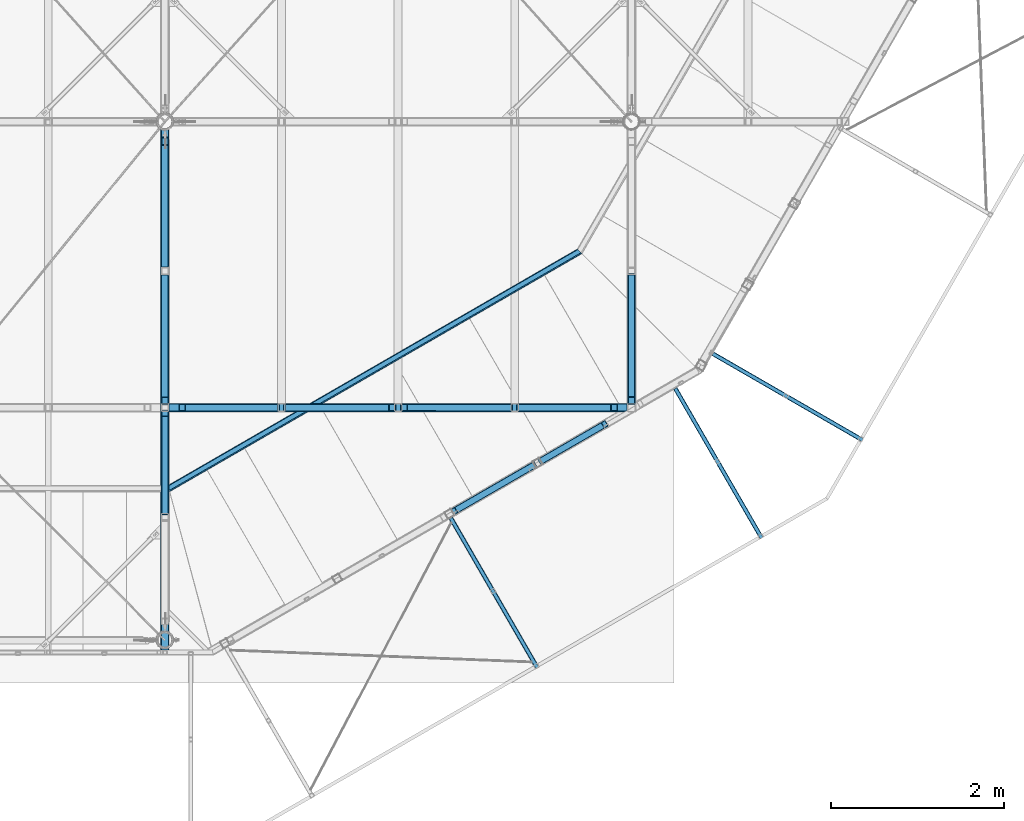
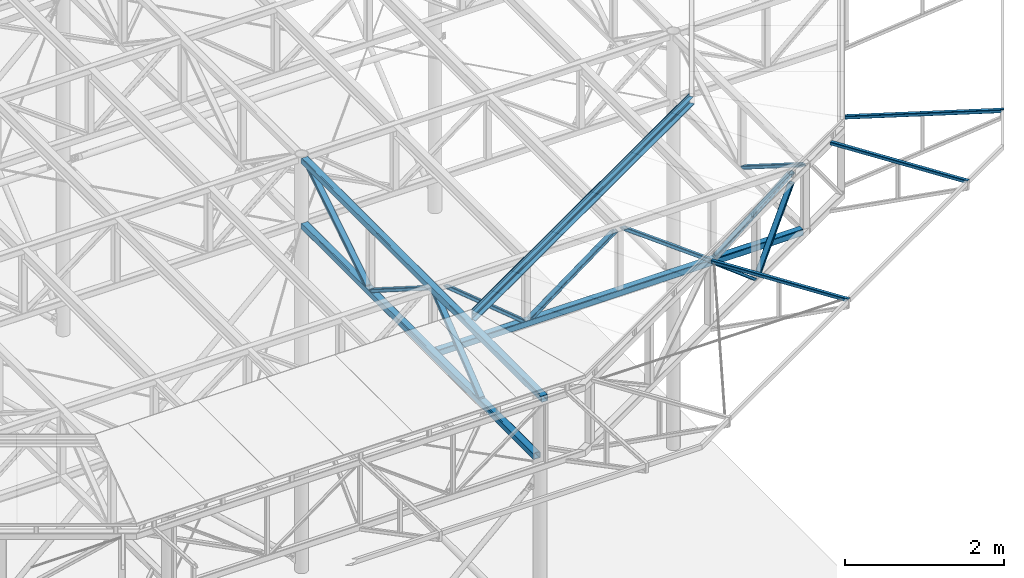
# One storey, part 46 of 132: 18 discrete accessories, 8 elements without a shape of their own.
"""IFC2X3 building model written with IfcOpenShell, lengths in millimetres."""

from ifc_helpers import new_model, si_unit, frame, origin_with_axes, origin_2d_with_axis, place, context, subcontext, project, spatial, hollow_rectangle, circle, l_section, extrude, boolean, clip, halfspace, material, type_object, element, aggregate, save


model = new_model("IFC2X3")

# Units and contexts
model_context = context("Model", 3, precision=1e-05, world=origin_with_axes())
body_context = subcontext(model_context, "Body", "Model", "MODEL_VIEW")
ifc_project = project(units=[si_unit("LENGTHUNIT", "METRE", prefix="MILLI"), si_unit("AREAUNIT", "SQUARE_METRE"), si_unit("VOLUMEUNIT", "CUBIC_METRE"), si_unit("MASSUNIT", "GRAM", prefix="KILO"), si_unit("TIMEUNIT", "SECOND"), si_unit("PLANEANGLEUNIT", "RADIAN"), si_unit("SOLIDANGLEUNIT", "STERADIAN"), si_unit("THERMODYNAMICTEMPERATUREUNIT", "DEGREE_CELSIUS"), si_unit("LUMINOUSINTENSITYUNIT", "LUMEN")], contexts=[model_context])

# Site, building, storey
site_placement = place(None, origin_with_axes())
site = spatial("IfcSite", under=ifc_project, at=site_placement, Name="Budowa", CompositionType="ELEMENT")
building_placement = place(site_placement, origin_with_axes())
building = spatial("IfcBuilding", under=site, at=building_placement, Name="Undefined", CompositionType="ELEMENT")
storey_placement = place(building_placement, origin_with_axes())
storey = spatial("IfcBuildingStorey", under=building, at=storey_placement, Name="Undefined", CompositionType="ELEMENT", Elevation=0.0)

# Assembly, discrete accessory
assembly_1_placement = place(storey_placement, origin_with_axes())
assembly_1 = element("IfcElementAssembly", 1, at=assembly_1_placement, inside=storey, Name="Steel Assembly", AssemblyPlace="NOTDEFINED", PredefinedType="RIGID_FRAME")
ifc_material = material(Name="STEEL/S235")
discrete_accessory_type = type_object("IfcDiscreteAccessoryType", Name="BEAM")
discrete_accessory_1_placement = place(assembly_1_placement, frame((14875.4050996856, 1760.34988664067, 13965.0), z_axis=(0.5000000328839, -0.866025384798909, 0.0), x_axis=(0.866025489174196, 0.499999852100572, 0.0)))
discrete_accessory_1 = element("IfcDiscreteAccessory", 2, at=discrete_accessory_1_placement, type_object=discrete_accessory_type, material=ifc_material, Name="BEAM", ObjectType="L50*6", context=body_context, shape_type="Clipping", body=[
    clip(clip(extrude(l_section(Depth=50.0, Width=50.0, Thickness=6.0, FilletRadius=7.0, EdgeRadius=3.5, at=origin_2d_with_axis()), frame((5526.2433656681, -1.81898940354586e-12, -9.09494701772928e-13), z_axis=(-1.0, 0.0, 0.0), x_axis=(0.0, -1.0, 0.0)), (0.0, 0.0, 1.0), 5576.68), halfspace(frame((5475.81035694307, -1.81898940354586e-12, -25.0000000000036), z_axis=(-0.965925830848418, 0.0, 0.258819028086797), x_axis=(0.0, 1.0, 0.0)), True)), halfspace(frame((3.51101334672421e-08, 0.0, -24.9999999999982), z_axis=(-0.965925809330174, 0.0, -0.258819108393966), x_axis=(0.0, 1.0, 0.0)), False)),
])
aggregate(assembly_1, [discrete_accessory_1])

assembly_2_placement = place(storey_placement, origin_with_axes())
assembly_2 = element("IfcElementAssembly", 3, at=assembly_2_placement, inside=storey, Name="Steel Assembly", AssemblyPlace="NOTDEFINED", PredefinedType="RIGID_FRAME")
discrete_accessory_2_placement = place(assembly_2_placement, frame((14879.2435563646, 1758.52456850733, 13955.0), z_axis=(0.0, 0.0, 1.0), x_axis=(0.866025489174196, 0.499999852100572, 0.0)))
discrete_accessory_2 = element("IfcDiscreteAccessory", 4, at=discrete_accessory_2_placement, type_object=discrete_accessory_type, material=ifc_material, Name="BEAM", ObjectType="L150*75*9", context=body_context, shape_type="Clipping", body=[
    clip(clip(extrude(l_section(Depth=150.0, Width=75.0, Thickness=9.0, FilletRadius=10.5, EdgeRadius=5.5, at=origin_2d_with_axis()), frame((5546.63678901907, -3.07900193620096e-13, 0.0), z_axis=(-1.0, 0.0, 0.0), x_axis=(0.0, -1.0, 0.0)), (0.0, 0.0, 1.0), 5622.29), halfspace(frame((5470.98727593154, 37.5000000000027, 0.0), z_axis=(-0.965925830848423, -0.258819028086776, 0.0), x_axis=(0.0, 0.0, 1.0)), True)), halfspace(frame((1.9117578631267e-08, 37.5000000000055, -1.81898940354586e-12), z_axis=(-0.965925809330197, 0.258819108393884, 0.0), x_axis=(0.0, 0.0, 1.0)), False)),
])
aggregate(assembly_2, [discrete_accessory_2])

assembly_3_placement = place(storey_placement, origin_with_axes())
assembly_3 = element("IfcElementAssembly", 5, at=assembly_3_placement, inside=storey, Name="Steel Assembly", AssemblyPlace="NOTDEFINED", PredefinedType="RIGID_FRAME")
discrete_accessory_3_placement = place(assembly_3_placement, frame((21169.1983036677, 3312.5153364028, 13855.0311915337), z_axis=(-0.499969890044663, -0.866042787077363, 0.0), x_axis=(0.864962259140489, -0.499346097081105, 0.0499376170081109)))
discrete_accessory_3 = element("IfcDiscreteAccessory", 6, at=discrete_accessory_3_placement, type_object=discrete_accessory_type, material=ifc_material, Name="BEAM", ObjectType="SHS50*4", context=body_context, shape_type="Clipping", body=[
    clip(clip(extrude(hollow_rectangle(XDim=50.0, YDim=50.0, WallThickness=4.0, InnerFilletRadius=4.0, OuterFilletRadius=8.0, at=origin_2d_with_axis()), frame((2047.80222226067, -1.81898940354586e-12, -1.00153404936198e-12), z_axis=(-1.0, 0.0, 0.0), x_axis=(0.0, -1.0, 0.0)), (0.0, 0.0, 1.0), 2120.54), halfspace(frame((2002.59894631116, 25.0000000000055, -2.91038304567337e-11), z_axis=(-0.689225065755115, 0.724547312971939, 0.0), x_axis=(0.0, 0.0, 1.0)), True)), halfspace(frame((-1.21290213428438e-08, 25.0000000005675, 73.1665326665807), z_axis=(-0.998752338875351, 0.0499376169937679, 0.0), x_axis=(-0.0499376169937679, -0.998752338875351, 0.0)), False)),
])
aggregate(assembly_3, [discrete_accessory_3])

assembly_4_placement = place(storey_placement, origin_with_axes())
assembly_4 = element("IfcElementAssembly", 7, at=assembly_4_placement, inside=storey, Name="Steel Assembly", AssemblyPlace="NOTDEFINED", PredefinedType="RIGID_FRAME")
discrete_accessory_4_placement = place(assembly_4_placement, frame((20733.5513428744, 2910.24346693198, 13855.0311915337), z_axis=(0.866042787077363, 0.499969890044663, 0.0), x_axis=(0.499346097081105, -0.86496225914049, 0.0499376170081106)))
discrete_accessory_4 = element("IfcDiscreteAccessory", 8, at=discrete_accessory_4_placement, type_object=discrete_accessory_type, material=ifc_material, Name="BEAM", ObjectType="SHS50*4", context=body_context, shape_type="Clipping", body=[
    clip(clip(extrude(hollow_rectangle(XDim=50.0, YDim=50.0, WallThickness=4.0, InnerFilletRadius=4.0, OuterFilletRadius=8.0, at=origin_2d_with_axis()), frame((2047.80222226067, -1.81898940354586e-12, -1.00153404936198e-12), z_axis=(-1.0, 0.0, 0.0), x_axis=(0.0, -1.0, 0.0)), (0.0, 0.0, 1.0), 2120.54), halfspace(frame((2002.5989463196, -25.0000000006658, -7.85761585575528e-07), z_axis=(-0.689225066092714, -0.724547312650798, 2.88487317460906e-10), x_axis=(0.0, 0.0, -1.0)), True)), halfspace(frame((-1.23691279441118e-08, -25.0000000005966, 73.1665326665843), z_axis=(-0.998752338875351, -0.0499376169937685, 0.0), x_axis=(0.0, 0.0, -1.0)), False)),
])
aggregate(assembly_4, [discrete_accessory_4])

assembly_5_placement = place(storey_placement, origin_with_axes())
assembly_5 = element("IfcElementAssembly", 9, at=assembly_5_placement, inside=storey, Name="Steel Assembly", AssemblyPlace="NOTDEFINED", PredefinedType="RIGID_FRAME")
discrete_accessory_5_placement = place(assembly_5_placement, frame((18135.4229816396, 1410.33379680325, 13855.0311915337), z_axis=(0.866042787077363, 0.499969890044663, 0.0), x_axis=(0.499346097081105, -0.86496225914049, 0.0499376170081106)))
discrete_accessory_5 = element("IfcDiscreteAccessory", 10, at=discrete_accessory_5_placement, type_object=discrete_accessory_type, material=ifc_material, Name="BEAM", ObjectType="SHS50*4", context=body_context, shape_type="Clipping", body=[
    clip(clip(extrude(hollow_rectangle(XDim=50.0, YDim=50.0, WallThickness=4.0, InnerFilletRadius=4.0, OuterFilletRadius=8.0, at=origin_2d_with_axis()), frame((2047.80222226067, -1.81898940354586e-12, -1.00153404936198e-12), z_axis=(-1.0, 0.0, 0.0), x_axis=(0.0, -1.0, 0.0)), (0.0, 0.0, 1.0), 2120.54), halfspace(frame((2002.5989463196, -25.0000000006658, -7.85761585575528e-07), z_axis=(-0.689225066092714, -0.724547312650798, 2.88487317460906e-10), x_axis=(0.0, 0.0, -1.0)), True)), halfspace(frame((-1.23691279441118e-08, -25.0000000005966, 73.1665326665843), z_axis=(-0.998752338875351, -0.0499376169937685, 0.0), x_axis=(0.0, 0.0, -1.0)), False)),
])
aggregate(assembly_5, [discrete_accessory_5])

# Assembly, discrete accessories
assembly_6_placement = place(storey_placement, origin_with_axes())
assembly_6 = element("IfcElementAssembly", 11, at=assembly_6_placement, inside=storey, Name="Steel Assembly", AssemblyPlace="NOTDEFINED", PredefinedType="RIGID_FRAME")
discrete_accessory_6_placement = place(assembly_6_placement, frame((19956.0939902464, 2520.58970884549, 13830.0000000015), z_axis=(0.499969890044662, -0.866042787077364, 0.0), x_axis=(-0.593830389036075, -0.342820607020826, -0.727900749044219)))
solid_1 = boolean("DIFFERENCE", boolean("DIFFERENCE", extrude(hollow_rectangle(XDim=90.0, YDim=90.0, WallThickness=4.0, InnerFilletRadius=4.0, OuterFilletRadius=8.0, at=origin_2d_with_axis()), frame((682.22123395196, -651.306316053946, 2.31073860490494e-07), z_axis=(0.727900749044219, 0.685682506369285, 2.47249776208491e-10), x_axis=(-0.685682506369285, 0.727900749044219, -2.32911134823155e-10)), (0.0, 0.0, 1.0), 900.0), halfspace(frame((682.221233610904, -651.306316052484, 1000.00000023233), z_axis=(0.727900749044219, 0.685682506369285, 2.47249776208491e-10), x_axis=(0.0, 0.0, -1.0)), True)), halfspace(frame((1337.3319077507, -34.1920603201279, 1000.00000045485), z_axis=(-0.727900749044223, -0.685682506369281, -2.47250682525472e-10), x_axis=(0.0, 0.0, -1.0)), True))
discrete_accessory_6 = element("IfcDiscreteAccessory", 12, at=discrete_accessory_6_placement, type_object=discrete_accessory_type, material=ifc_material, Name="BEAM", ObjectType="RHS80*40*4", context=body_context, shape_type="CSG", body=[
    boolean("DIFFERENCE", boolean("DIFFERENCE", boolean("DIFFERENCE", extrude(hollow_rectangle(XDim=40.0, YDim=80.0, WallThickness=4.0, InnerFilletRadius=4.0, OuterFilletRadius=8.0, at=origin_2d_with_axis()), frame((1373.49673337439, 0.0, -8.42217636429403e-13), z_axis=(-1.0, 0.0, 0.0), x_axis=(0.0, -1.0, 0.0)), (0.0, 0.0, 1.0), 1373.18), solid_1), halfspace(frame((1337.41863297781, -34.284125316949, 999.999999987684), z_axis=(-0.727900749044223, -0.685682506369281, -2.47250682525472e-10), x_axis=(0.685682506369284, -0.72790074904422, 2.32910679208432e-10)), True)), halfspace(frame((36.3950371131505, 34.2841253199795, 1000.00000001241), z_axis=(0.727900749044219, 0.685682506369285, 2.47249776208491e-10), x_axis=(-0.685682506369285, 0.727900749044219, -2.32911134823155e-10)), True)),
])
discrete_accessory_7_placement = place(assembly_6_placement, frame((18120.1928179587, 1460.71677769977, 13830.0000000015), z_axis=(0.499969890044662, -0.866042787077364, 0.0), x_axis=(0.660231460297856, 0.381154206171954, -0.64715986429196)))
solid_2 = boolean("DIFFERENCE", boolean("DIFFERENCE", extrude(hollow_rectangle(XDim=90.0, YDim=90.0, WallThickness=4.0, InnerFilletRadius=4.0, OuterFilletRadius=8.0, at=origin_2d_with_axis()), frame((32.3579932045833, -38.117716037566, 1.45102752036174e-08), z_axis=(0.64715986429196, -0.762354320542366, 2.65512611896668e-10), x_axis=(0.762354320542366, 0.64715986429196, 3.12771697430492e-10)), (0.0, 0.0, 1.0), 900.0), halfspace(frame((32.3579927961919, -38.1177160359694, 1000.00000001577), z_axis=(0.64715986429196, -0.762354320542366, 2.65512611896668e-10), x_axis=(0.0, 0.0, -1.0)), True)), halfspace(frame((614.801870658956, -724.236604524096, 1000.00000025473), z_axis=(-0.64715986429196, 0.762354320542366, -2.655122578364e-10), x_axis=(0.0, 0.0, -1.0)), True))
solid_3 = boolean("DIFFERENCE", boolean("DIFFERENCE", extrude(hollow_rectangle(XDim=90.0, YDim=90.0, WallThickness=4.0, InnerFilletRadius=4.0, OuterFilletRadius=8.0, at=origin_2d_with_axis()), frame((930.411382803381, 724.236604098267, 3.85323998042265e-07), z_axis=(0.64715986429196, -0.762354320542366, 2.65512611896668e-10), x_axis=(0.762354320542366, 0.64715986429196, 3.12771697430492e-10)), (0.0, 0.0, 1.0), 900.0), halfspace(frame((930.411382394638, 724.236604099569, 1000.00000038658), z_axis=(0.64715986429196, -0.762354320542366, 2.65512611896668e-10), x_axis=(0.0, 0.0, -1.0)), True)), halfspace(frame((1512.8552602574, 38.1177156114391, 1000.00000062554), z_axis=(-0.64715986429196, 0.762354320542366, -2.655122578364e-10), x_axis=(0.0, 0.0, -1.0)), True))
discrete_accessory_7 = element("IfcDiscreteAccessory", 13, at=discrete_accessory_7_placement, type_object=discrete_accessory_type, material=ifc_material, Name="BEAM", ObjectType="RHS80*40*4", context=body_context, shape_type="CSG", body=[
    boolean("DIFFERENCE", boolean("DIFFERENCE", boolean("DIFFERENCE", boolean("DIFFERENCE", extrude(hollow_rectangle(XDim=40.0, YDim=80.0, WallThickness=4.0, InnerFilletRadius=4.0, OuterFilletRadius=8.0, at=origin_2d_with_axis()), frame((1542.70146532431, -8.56371343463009e-14, -4.63483066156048e-14), z_axis=(-1.0, 0.0, 0.0), x_axis=(0.0, -1.0, 0.0)), (0.0, 0.0, 1.0), 1540.19), solid_2), solid_3), halfspace(frame((1512.8552602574, 38.1177156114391, 1000.00000062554), z_axis=(-0.64715986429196, 0.762354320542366, -2.655122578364e-10), x_axis=(-0.762354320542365, -0.647159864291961, -3.12771589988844e-10)), True)), halfspace(frame((32.3579927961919, -38.1177160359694, 1000.00000001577), z_axis=(0.64715986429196, -0.762354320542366, 2.65512611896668e-10), x_axis=(0.762354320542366, 0.64715986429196, 3.12771697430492e-10)), True)),
])

assembly_7_placement = place(storey_placement, origin_with_axes())
assembly_7 = element("IfcElementAssembly", 14, at=assembly_7_placement, inside=storey, Name="Steel Assembly", AssemblyPlace="NOTDEFINED", PredefinedType="RIGID_FRAME")
discrete_accessory_8_placement = place(assembly_7_placement, frame((20083.9999999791, 2690.0000000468, 13830.0), z_axis=(0.0, -1.0, 0.0), x_axis=(-0.770567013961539, 0.0, -0.637358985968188)))
solid_4 = boolean("DIFFERENCE", boolean("DIFFERENCE", extrude(hollow_rectangle(XDim=90.0, YDim=90.0, WallThickness=6.0, InnerFilletRadius=6.0, OuterFilletRadius=12.0, at=origin_2d_with_axis()), frame((1537.1065565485, -38.5283507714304, -6.22094376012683e-10), z_axis=(-0.637358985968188, -0.770567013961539, 0.0), x_axis=(0.770567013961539, -0.637358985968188, 0.0)), (0.0, 0.0, 1.0), 900.0), halfspace(frame((1537.1065565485, -38.5283507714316, 999.999999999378), z_axis=(-0.637358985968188, -0.770567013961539, 0.0), x_axis=(0.770567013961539, -0.637358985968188, 0.0)), True)), halfspace(frame((963.483469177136, -732.038663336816, 999.999999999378), z_axis=(0.637358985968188, 0.770567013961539, 0.0), x_axis=(-0.770567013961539, 0.637358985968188, 0.0)), True))
discrete_accessory_8 = element("IfcDiscreteAccessory", 15, at=discrete_accessory_8_placement, type_object=discrete_accessory_type, material=ifc_material, Name="BEAM", ObjectType="RHS90*50*5", context=body_context, shape_type="CSG", body=[
    boolean("DIFFERENCE", boolean("DIFFERENCE", boolean("DIFFERENCE", extrude(hollow_rectangle(XDim=50.0, YDim=90.0, WallThickness=5.0, InnerFilletRadius=7.5, OuterFilletRadius=12.5, at=origin_2d_with_axis()), frame((1533.07734352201, 2.27373675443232e-12, 0.0), z_axis=(-1.0, 0.0, 0.0), x_axis=(0.0, -1.0, 0.0)), (0.0, 0.0, 1.0), 1497.18), solid_4), halfspace(frame((1537.1065565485, -38.5283507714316, 999.999999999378), z_axis=(-0.637358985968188, -0.770567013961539, 0.0), x_axis=(0.770567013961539, -0.637358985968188, 0.0)), True)), halfspace(frame((31.867949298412, 38.52835069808, 1000.0), z_axis=(0.637358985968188, 0.770567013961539, 0.0), x_axis=(-0.770567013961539, 0.637358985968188, 0.0)), True)),
])
discrete_accessory_9_placement = place(assembly_7_placement, frame((14965.9999999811, 2690.0000000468, 13830.0), z_axis=(0.0, -1.0, 0.0), x_axis=(0.770567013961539, 0.0, -0.637358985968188)))
solid_5 = boolean("DIFFERENCE", boolean("DIFFERENCE", extrude(hollow_rectangle(XDim=90.0, YDim=90.0, WallThickness=6.0, InnerFilletRadius=6.0, OuterFilletRadius=12.0, at=origin_2d_with_axis()), frame((1537.1065565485, 38.528350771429, -6.22094376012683e-10), z_axis=(-0.637358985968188, 0.770567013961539, 0.0), x_axis=(-0.770567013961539, -0.637358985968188, 0.0)), (0.0, 0.0, 1.0), 900.0), halfspace(frame((1537.1065565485, 38.5283507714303, 999.999999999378), z_axis=(-0.637358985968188, 0.770567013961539, 0.0), x_axis=(-0.770567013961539, -0.637358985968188, 0.0)), True)), halfspace(frame((963.483469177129, 732.038663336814, 999.999999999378), z_axis=(0.637358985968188, -0.770567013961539, 0.0), x_axis=(0.770567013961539, 0.637358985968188, 0.0)), True))
discrete_accessory_9 = element("IfcDiscreteAccessory", 16, at=discrete_accessory_9_placement, type_object=discrete_accessory_type, material=ifc_material, Name="BEAM", ObjectType="RHS90*50*5", context=body_context, shape_type="CSG", body=[
    boolean("DIFFERENCE", boolean("DIFFERENCE", boolean("DIFFERENCE", extrude(hollow_rectangle(XDim=50.0, YDim=90.0, WallThickness=5.0, InnerFilletRadius=7.5, OuterFilletRadius=12.5, at=origin_2d_with_axis()), frame((1533.07734352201, 2.27373675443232e-12, 0.0), z_axis=(-1.0, 0.0, 0.0), x_axis=(0.0, -1.0, 0.0)), (0.0, 0.0, 1.0), 1497.18), solid_5), halfspace(frame((1537.1065565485, 38.5283507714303, 999.999999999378), z_axis=(-0.637358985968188, 0.770567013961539, 0.0), x_axis=(-0.770567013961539, -0.637358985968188, 0.0)), True)), halfspace(frame((31.867949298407, -38.5283506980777, 1000.0), z_axis=(0.637358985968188, -0.770567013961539, 0.0), x_axis=(0.770567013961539, 0.637358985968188, 0.0)), True)),
])
discrete_accessory_10_placement = place(assembly_7_placement, frame((17524.9999999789, 2690.0000000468, 13830.0), z_axis=(0.0, -1.0, 0.0), x_axis=(-0.803557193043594, 0.0, -0.595227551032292)))
solid_6 = boolean("DIFFERENCE", boolean("DIFFERENCE", extrude(hollow_rectangle(XDim=90.0, YDim=90.0, WallThickness=6.0, InnerFilletRadius=6.0, OuterFilletRadius=12.0, at=origin_2d_with_axis()), frame((565.466173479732, 763.379333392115, -6.22094376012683e-10), z_axis=(-0.595227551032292, -0.803557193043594, 0.0), x_axis=(0.803557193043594, -0.595227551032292, 0.0)), (0.0, 0.0, 1.0), 900.0), halfspace(frame((565.46617347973, 763.379333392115, 999.999999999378), z_axis=(-0.595227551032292, -0.803557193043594, 0.0), x_axis=(0.803557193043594, -0.595227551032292, 0.0)), True)), halfspace(frame((29.7613775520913, 40.1778596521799, 1000.0), z_axis=(0.595227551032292, 0.803557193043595, 0.0), x_axis=(-0.803557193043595, 0.595227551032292, 0.0)), True))
solid_7 = boolean("DIFFERENCE", boolean("DIFFERENCE", extrude(hollow_rectangle(XDim=90.0, YDim=90.0, WallThickness=6.0, InnerFilletRadius=6.0, OuterFilletRadius=12.0, at=origin_2d_with_axis()), frame((1650.26838408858, -40.1778605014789, -6.22094376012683e-10), z_axis=(-0.595227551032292, -0.803557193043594, 0.0), x_axis=(0.803557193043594, -0.595227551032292, 0.0)), (0.0, 0.0, 1.0), 900.0), halfspace(frame((1650.2683829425, -40.1778596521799, 1000.0), z_axis=(-0.595227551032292, -0.803557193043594, 0.0), x_axis=(0.803557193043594, -0.595227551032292, 0.0)), True)), halfspace(frame((1114.56358815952, -763.379334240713, 999.999999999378), z_axis=(0.595227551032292, 0.803557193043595, 0.0), x_axis=(-0.803557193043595, 0.595227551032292, 0.0)), True))
discrete_accessory_10 = element("IfcDiscreteAccessory", 17, at=discrete_accessory_10_placement, type_object=discrete_accessory_type, material=ifc_material, Name="BEAM", ObjectType="RHS90*50*5", context=body_context, shape_type="CSG", body=[
    boolean("DIFFERENCE", boolean("DIFFERENCE", boolean("DIFFERENCE", boolean("DIFFERENCE", extrude(hollow_rectangle(XDim=50.0, YDim=90.0, WallThickness=5.0, InnerFilletRadius=7.5, OuterFilletRadius=12.5, at=origin_2d_with_axis()), frame((1632.54994793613, 0.0, 0.0), z_axis=(-1.0, 0.0, 0.0), x_axis=(0.0, -1.0, 0.0)), (0.0, 0.0, 1.0), 1585.07), solid_6), solid_7), halfspace(frame((1650.2683829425, -40.1778596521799, 1000.0), z_axis=(-0.595227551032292, -0.803557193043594, 0.0), x_axis=(0.803557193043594, -0.595227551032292, 0.0)), True)), halfspace(frame((29.7613775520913, 40.1778596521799, 1000.0), z_axis=(0.595227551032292, 0.803557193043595, 0.0), x_axis=(-0.803557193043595, 0.595227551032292, 0.0)), True)),
])
discrete_accessory_11_placement = place(assembly_7_placement, frame((17524.9999999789, 2690.0000000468, 13830.0), z_axis=(0.0, -1.0, 0.0), x_axis=(0.803557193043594, 0.0, -0.595227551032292)))
solid_8 = boolean("DIFFERENCE", boolean("DIFFERENCE", extrude(hollow_rectangle(XDim=90.0, YDim=90.0, WallThickness=6.0, InnerFilletRadius=6.0, OuterFilletRadius=12.0, at=origin_2d_with_axis()), frame((1650.26838408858, 40.1778605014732, -6.22094376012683e-10), z_axis=(-0.595227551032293, 0.803557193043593, 0.0), x_axis=(-0.803557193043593, -0.595227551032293, 0.0)), (0.0, 0.0, 1.0), 900.0), halfspace(frame((1650.2683829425, 40.1778596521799, 1000.0), z_axis=(-0.595227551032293, 0.803557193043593, 0.0), x_axis=(-0.803557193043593, -0.595227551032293, 0.0)), True)), halfspace(frame((1114.56358815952, 763.379334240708, 999.999999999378), z_axis=(0.595227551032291, -0.803557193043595, 0.0), x_axis=(0.803557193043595, 0.595227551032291, 0.0)), True))
solid_9 = boolean("DIFFERENCE", boolean("DIFFERENCE", extrude(hollow_rectangle(XDim=90.0, YDim=90.0, WallThickness=6.0, InnerFilletRadius=6.0, OuterFilletRadius=12.0, at=origin_2d_with_axis()), frame((565.46617347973, -763.379333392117, -6.22094376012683e-10), z_axis=(-0.595227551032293, 0.803557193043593, 0.0), x_axis=(-0.803557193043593, -0.595227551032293, 0.0)), (0.0, 0.0, 1.0), 900.0), halfspace(frame((565.46617347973, -763.37933339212, 999.999999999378), z_axis=(-0.595227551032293, 0.803557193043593, 0.0), x_axis=(-0.803557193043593, -0.595227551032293, 0.0)), True)), halfspace(frame((29.7613775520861, -40.1778596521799, 1000.0), z_axis=(0.595227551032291, -0.803557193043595, 0.0), x_axis=(0.803557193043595, 0.595227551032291, 0.0)), True))
discrete_accessory_11 = element("IfcDiscreteAccessory", 18, at=discrete_accessory_11_placement, type_object=discrete_accessory_type, material=ifc_material, Name="BEAM", ObjectType="RHS90*50*5", context=body_context, shape_type="CSG", body=[
    boolean("DIFFERENCE", boolean("DIFFERENCE", boolean("DIFFERENCE", boolean("DIFFERENCE", extrude(hollow_rectangle(XDim=50.0, YDim=90.0, WallThickness=5.0, InnerFilletRadius=7.5, OuterFilletRadius=12.5, at=origin_2d_with_axis()), frame((1632.54994793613, 0.0, 0.0), z_axis=(-1.0, 0.0, 0.0), x_axis=(0.0, -1.0, 0.0)), (0.0, 0.0, 1.0), 1585.07), solid_8), solid_9), halfspace(frame((1650.2683829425, 40.1778596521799, 1000.0), z_axis=(-0.595227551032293, 0.803557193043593, 0.0), x_axis=(-0.803557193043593, -0.595227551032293, 0.0)), True)), halfspace(frame((29.7613775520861, -40.1778596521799, 1000.0), z_axis=(0.595227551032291, -0.803557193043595, 0.0), x_axis=(0.803557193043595, 0.595227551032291, 0.0)), True)),
])
discrete_accessory_12_placement = place(assembly_7_placement, frame((14874.9999999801, 2690.00000004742, 12830.0), z_axis=(0.0, -1.0, 0.0), x_axis=(1.0, 0.0, 0.0)))
discrete_accessory_12 = element("IfcDiscreteAccessory", 19, at=discrete_accessory_12_placement, type_object=discrete_accessory_type, material=ifc_material, Name="BEAM", ObjectType="SHS100*8", context=body_context, shape_type="SweptSolid", body=[
    extrude(hollow_rectangle(XDim=100.0, YDim=100.0, WallThickness=8.0, InnerFilletRadius=8.0, OuterFilletRadius=16.0, at=origin_2d_with_axis()), frame((5300.0, 0.0, 0.0), z_axis=(-1.0, 0.0, 0.0), x_axis=(0.0, -1.0, 0.0)), (0.0, 0.0, 1.0), 5300.0),
])
aggregate(assembly_7, [discrete_accessory_8, discrete_accessory_9, discrete_accessory_10, discrete_accessory_11, discrete_accessory_12])

# Discrete accessory
discrete_accessory_13_placement = place(assembly_6_placement, frame((14824.9999999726, 5851.96136506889, 13830.0000000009), z_axis=(1.0, 0.0, 0.0), x_axis=(0.0, -0.845133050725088, -0.534556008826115)))
solid_10 = boolean("DIFFERENCE", boolean("DIFFERENCE", extrude(hollow_rectangle(XDim=90.0, YDim=90.0, WallThickness=6.0, InnerFilletRadius=6.0, OuterFilletRadius=12.0, at=origin_2d_with_axis()), frame((1362.85050194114, -802.855744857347, -4.56930138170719e-09), z_axis=(0.534556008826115, 0.845133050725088, 0.0), x_axis=(0.845133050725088, -0.534556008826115, 0.0)), (0.0, 0.0, 1.0), 900.0), halfspace(frame((1362.85050194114, -802.855744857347, -1000.00000000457), z_axis=(0.534556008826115, 0.845133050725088, 0.0), x_axis=(0.845133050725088, -0.534556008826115, 0.0)), True)), halfspace(frame((1843.95090988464, -42.2359992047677, -1000.00000000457), z_axis=(-0.534556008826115, -0.845133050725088, 0.0), x_axis=(-0.845133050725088, 0.534556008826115, 0.0)), True))
discrete_accessory_13 = element("IfcDiscreteAccessory", 20, at=discrete_accessory_13_placement, type_object=discrete_accessory_type, material=ifc_material, Name="BEAM", ObjectType="RHS90*50*5", context=body_context, shape_type="CSG", body=[
    boolean("DIFFERENCE", boolean("DIFFERENCE", boolean("DIFFERENCE", extrude(hollow_rectangle(XDim=50.0, YDim=90.0, WallThickness=5.0, InnerFilletRadius=7.5, OuterFilletRadius=12.5, at=origin_2d_with_axis()), frame((1846.12761391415, 0.0, 0.0), z_axis=(-1.0, 0.0, 0.0), x_axis=(0.0, -1.0, 0.0)), (0.0, 0.0, 1.0), 1821.54), solid_10), halfspace(frame((1843.98356280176, -42.2566525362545, 1000.0), z_axis=(-0.534556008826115, -0.845133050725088, 0.0), x_axis=(0.845133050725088, -0.534556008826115, 0.0)), True)), halfspace(frame((26.7278004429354, 42.2566525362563, 1000.0), z_axis=(0.534556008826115, 0.845133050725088, 0.0), x_axis=(-0.845133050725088, 0.534556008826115, 0.0)), True)),
])

discrete_accessory_14_placement = place(assembly_6_placement, frame((14824.9999999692, 2690.00000004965, 13830.0000000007), z_axis=(1.0, 0.0, 0.0), x_axis=(0.0, -0.785673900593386, -0.618640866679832)))
solid_11 = boolean("DIFFERENCE", boolean("DIFFERENCE", extrude(hollow_rectangle(XDim=90.0, YDim=90.0, WallThickness=6.0, InnerFilletRadius=6.0, OuterFilletRadius=12.0, at=origin_2d_with_axis()), frame((30.932043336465, 39.283695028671, -1.21326593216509e-09), z_axis=(0.618640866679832, 0.785673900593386, 0.0), x_axis=(0.785673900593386, -0.618640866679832, 0.0)), (0.0, 0.0, 1.0), 900.0), halfspace(frame((30.9320433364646, 39.283695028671, -1000.00000000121), z_axis=(0.618640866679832, 0.785673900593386, 0.0), x_axis=(0.785673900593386, -0.618640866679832, 0.0)), True)), halfspace(frame((587.708823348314, 746.390205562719, -1000.00000000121), z_axis=(-0.618640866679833, -0.785673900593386, 0.0), x_axis=(-0.785673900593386, 0.618640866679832, 0.0)), True))
solid_12 = boolean("DIFFERENCE", boolean("DIFFERENCE", extrude(hollow_rectangle(XDim=90.0, YDim=90.0, WallThickness=6.0, InnerFilletRadius=6.0, OuterFilletRadius=12.0, at=origin_2d_with_axis()), frame((1028.73789709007, -746.390205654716, -1.21326593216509e-09), z_axis=(0.618640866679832, 0.785673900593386, 0.0), x_axis=(0.785673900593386, -0.618640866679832, 0.0)), (0.0, 0.0, 1.0), 900.0), halfspace(frame((1028.73789709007, -746.390205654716, -1000.00000000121), z_axis=(0.618640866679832, 0.785673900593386, 0.0), x_axis=(0.785673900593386, -0.618640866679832, 0.0)), True)), halfspace(frame((1585.51467710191, -39.2836951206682, -1000.00000000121), z_axis=(-0.618640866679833, -0.785673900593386, 0.0), x_axis=(-0.785673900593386, 0.618640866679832, 0.0)), True))
discrete_accessory_14 = element("IfcDiscreteAccessory", 21, at=discrete_accessory_14_placement, type_object=discrete_accessory_type, material=ifc_material, Name="BEAM", ObjectType="RHS90*50*5", context=body_context, shape_type="CSG", body=[
    boolean("DIFFERENCE", boolean("DIFFERENCE", boolean("DIFFERENCE", boolean("DIFFERENCE", extrude(hollow_rectangle(XDim=50.0, YDim=90.0, WallThickness=5.0, InnerFilletRadius=7.5, OuterFilletRadius=12.5, at=origin_2d_with_axis()), frame((1564.98501807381, 8.68741200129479e-14, 0.0), z_axis=(-1.0, 0.0, 0.0), x_axis=(0.0, -1.0, 0.0)), (0.0, 0.0, 1.0), 1513.52), solid_11), solid_12), halfspace(frame((1585.51467698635, -39.2836950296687, 1000.0), z_axis=(-0.618640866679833, -0.785673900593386, 0.0), x_axis=(0.785673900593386, -0.618640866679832, 0.0)), True)), halfspace(frame((30.9320433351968, 39.2836950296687, 1000.0), z_axis=(0.618640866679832, 0.785673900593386, 0.0), x_axis=(-0.785673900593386, 0.618640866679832, 0.0)), True)),
])

discrete_accessory_15_placement = place(assembly_6_placement, frame((14824.9999999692, 2690.00000004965, 13830.0000000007), z_axis=(1.0, 0.0, 0.0), x_axis=(0.0, 0.845133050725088, -0.534556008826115)))
solid_13 = boolean("DIFFERENCE", boolean("DIFFERENCE", extrude(hollow_rectangle(XDim=90.0, YDim=90.0, WallThickness=6.0, InnerFilletRadius=6.0, OuterFilletRadius=12.0, at=origin_2d_with_axis()), frame((26.7278004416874, -42.2566525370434, -4.56930138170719e-09), z_axis=(0.534556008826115, -0.845133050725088, 0.0), x_axis=(-0.845133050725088, -0.534556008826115, 0.0)), (0.0, 0.0, 1.0), 900.0), halfspace(frame((26.7278004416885, -42.2566525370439, -1000.00000000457), z_axis=(0.534556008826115, -0.845133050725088, 0.0), x_axis=(-0.845133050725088, -0.534556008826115, 0.0)), True)), halfspace(frame((507.828208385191, -802.876398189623, -1000.00000000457), z_axis=(-0.534556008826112, 0.84513305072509, 0.0), x_axis=(0.845133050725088, 0.534556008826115, 0.0)), True))
solid_14 = boolean("DIFFERENCE", boolean("DIFFERENCE", extrude(hollow_rectangle(XDim=90.0, YDim=90.0, WallThickness=6.0, InnerFilletRadius=6.0, OuterFilletRadius=12.0, at=origin_2d_with_axis()), frame((1362.88315363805, 802.876397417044, -4.56930138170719e-09), z_axis=(0.534556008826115, -0.845133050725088, 0.0), x_axis=(-0.845133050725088, -0.534556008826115, 0.0)), (0.0, 0.0, 1.0), 900.0), halfspace(frame((1362.88315363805, 802.876397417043, -1000.00000000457), z_axis=(0.534556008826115, -0.845133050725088, 0.0), x_axis=(-0.845133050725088, -0.534556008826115, 0.0)), True)), halfspace(frame((1843.98356158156, 42.2566517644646, -1000.00000000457), z_axis=(-0.534556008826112, 0.84513305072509, 0.0), x_axis=(0.845133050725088, 0.534556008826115, 0.0)), True))
discrete_accessory_15 = element("IfcDiscreteAccessory", 22, at=discrete_accessory_15_placement, type_object=discrete_accessory_type, material=ifc_material, Name="BEAM", ObjectType="RHS90*50*5", context=body_context, shape_type="CSG", body=[
    boolean("DIFFERENCE", boolean("DIFFERENCE", boolean("DIFFERENCE", boolean("DIFFERENCE", extrude(hollow_rectangle(XDim=50.0, YDim=90.0, WallThickness=5.0, InnerFilletRadius=7.5, OuterFilletRadius=12.5, at=origin_2d_with_axis()), frame((1835.3048903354, 0.0, 0.0), z_axis=(-1.0, 0.0, 0.0), x_axis=(0.0, -1.0, 0.0)), (0.0, 0.0, 1.0), 1799.9), solid_13), solid_14), halfspace(frame((1843.98356280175, 42.2566525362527, 1000.0), z_axis=(-0.534556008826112, 0.84513305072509, 0.0), x_axis=(-0.845133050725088, -0.534556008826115, 0.0)), True)), halfspace(frame((26.7278004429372, -42.2566525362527, 1000.0), z_axis=(0.534556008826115, -0.845133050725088, 0.0), x_axis=(0.845133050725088, 0.534556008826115, 0.0)), True)),
])

# Assembly, discrete accessory
assembly_8_placement = place(storey_placement, origin_with_axes())
assembly_8 = element("IfcElementAssembly", 23, at=assembly_8_placement, inside=storey, Name="Steel Assembly", AssemblyPlace="NOTDEFINED", PredefinedType="RIGID_FRAME")
discrete_accessory_16_placement = place(assembly_8_placement, frame((20225.0000000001, 2691.00000004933, 13830.0), z_axis=(1.0, 0.0, 0.0), x_axis=(0.0, 0.845757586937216, -0.533567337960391)))
solid_15 = boolean("DIFFERENCE", boolean("DIFFERENCE", extrude(hollow_rectangle(XDim=90.0, YDim=90.0, WallThickness=6.0, InnerFilletRadius=6.0, OuterFilletRadius=12.0, at=origin_2d_with_axis()), frame((1843.27053417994, 39.6200431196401, 1.45519152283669e-11), z_axis=(-0.533567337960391, 0.845757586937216, 0.0), x_axis=(-0.845757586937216, -0.533567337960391, 0.0)), (0.0, 0.0, 1.0), 900.0), halfspace(frame((1843.27053417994, 39.6200431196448, 1000.00000000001), z_axis=(-0.533567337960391, 0.845757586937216, 0.0), x_axis=(-0.845757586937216, -0.533567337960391, 0.0)), True)), halfspace(frame((1363.05993001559, 800.801871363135, 1000.00000000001), z_axis=(0.53356733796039, -0.845757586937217, 0.0), x_axis=(0.845757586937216, 0.533567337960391, 0.0)), True))
discrete_accessory_16 = element("IfcDiscreteAccessory", 24, at=discrete_accessory_16_placement, type_object=discrete_accessory_type, material=ifc_material, Name="BEAM", ObjectType="RHS90*50*5", context=body_context, shape_type="CSG", body=[
    boolean("DIFFERENCE", boolean("DIFFERENCE", boolean("DIFFERENCE", boolean("DIFFERENCE", extrude(hollow_rectangle(XDim=50.0, YDim=90.0, WallThickness=5.0, InnerFilletRadius=7.5, OuterFilletRadius=12.5, at=origin_2d_with_axis()), frame((1831.21772735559, -1.58496423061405e-13, 0.0), z_axis=(-1.0, 0.0, 0.0), x_axis=(0.0, -1.0, 0.0)), (0.0, 0.0, 1.0), 1788.26), extrude(hollow_rectangle(XDim=100.0, YDim=100.0, WallThickness=8.0, InnerFilletRadius=8.0, OuterFilletRadius=16.0, at=origin_2d_with_axis()), frame((506.127789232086, -803.949918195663, 1.45519152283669e-11), z_axis=(-0.533567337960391, 0.845757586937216, 0.0), x_axis=(-0.845757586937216, -0.533567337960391, 0.0)), (0.0, 0.0, 1.0), 900.0)), solid_15), halfspace(frame((1847.49932138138, 42.287879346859, 1000.0), z_axis=(-0.533567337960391, 0.845757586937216, 0.0), x_axis=(-0.845757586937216, -0.533567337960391, 0.0)), True)), halfspace(frame((26.6783668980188, -42.2878793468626, 1000.0), z_axis=(0.53356733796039, -0.845757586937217, 0.0), x_axis=(0.845757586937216, 0.533567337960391, 0.0)), True)),
])
aggregate(assembly_8, [discrete_accessory_16])

# Discrete accessory
discrete_accessory_17_placement = place(assembly_6_placement, frame((14824.999999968, -114.899999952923, 13830.0), z_axis=(1.0, 0.0, 0.0), x_axis=(0.0, 1.0, 0.0)))
discrete_accessory_17 = element("IfcDiscreteAccessory", 25, at=discrete_accessory_17_placement, type_object=discrete_accessory_type, material=ifc_material, Name="BEAM", ObjectType="SHS100*8", context=body_context, shape_type="CSG", body=[
    boolean("DIFFERENCE", boolean("DIFFERENCE", extrude(hollow_rectangle(XDim=100.0, YDim=100.0, WallThickness=8.0, InnerFilletRadius=8.0, OuterFilletRadius=16.0, at=origin_2d_with_axis()), frame((6114.89999999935, 0.0, 0.0), z_axis=(-1.0, 0.0, 0.0), x_axis=(0.0, -1.0, 0.0)), (0.0, 0.0, 1.0), 6114.9), extrude(circle(Radius=89.9, at=origin_2d_with_axis()), frame((6114.9, 1950.0, 0.0), z_axis=(0.0, -1.0, 0.0), x_axis=(-1.0, 0.0, 0.0)), (0.0, 0.0, 1.0), 2100.0)), halfspace(frame((6114.9, -6339.0, 0.0), z_axis=(-1.0, 0.0, 0.0), x_axis=(0.0, 0.0, -1.0)), True)),
])

discrete_accessory_18_placement = place(assembly_6_placement, frame((14824.999999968, 88.9000000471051, 12830.0), z_axis=(1.0, 0.0, 0.0), x_axis=(0.0, 1.0, 0.0)))
discrete_accessory_18 = element("IfcDiscreteAccessory", 26, at=discrete_accessory_18_placement, type_object=discrete_accessory_type, material=ifc_material, Name="BEAM", ObjectType="SHS100*8", context=body_context, shape_type="CSG", body=[
    boolean("DIFFERENCE", boolean("DIFFERENCE", boolean("DIFFERENCE", boolean("DIFFERENCE", extrude(hollow_rectangle(XDim=100.0, YDim=100.0, WallThickness=8.0, InnerFilletRadius=8.0, OuterFilletRadius=16.0, at=origin_2d_with_axis()), frame((5911.09999999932, 0.0, 0.0), z_axis=(-1.0, 0.0, 0.0), x_axis=(0.0, -1.0, 0.0)), (0.0, 0.0, 1.0), 6000.0), extrude(circle(Radius=89.9, at=origin_2d_with_axis()), frame((-88.9000000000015, 1950.0, -5.45696821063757e-12), z_axis=(0.0, -1.0, 0.0), x_axis=(-1.0, 0.0, 0.0)), (0.0, 0.0, 1.0), 2100.0)), extrude(circle(Radius=89.9, at=origin_2d_with_axis()), frame((5911.09999999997, 1950.0, 0.0), z_axis=(0.0, -1.0, 0.0), x_axis=(-1.0, 0.0, 0.0)), (0.0, 0.0, 1.0), 2100.0)), halfspace(frame((5911.09999999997, -5339.0, 0.0), z_axis=(-1.0, 0.0, 0.0), x_axis=(0.0, 0.0, -1.0)), True)), halfspace(frame((-88.9000000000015, -5339.0, -5.45696821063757e-12), z_axis=(-1.0, 0.0, 0.0), x_axis=(0.0, 0.0, -1.0)), False)),
])

aggregate(assembly_6, [discrete_accessory_6, discrete_accessory_7, discrete_accessory_13, discrete_accessory_14, discrete_accessory_15, discrete_accessory_17, discrete_accessory_18])

save(model, "model.ifc")
